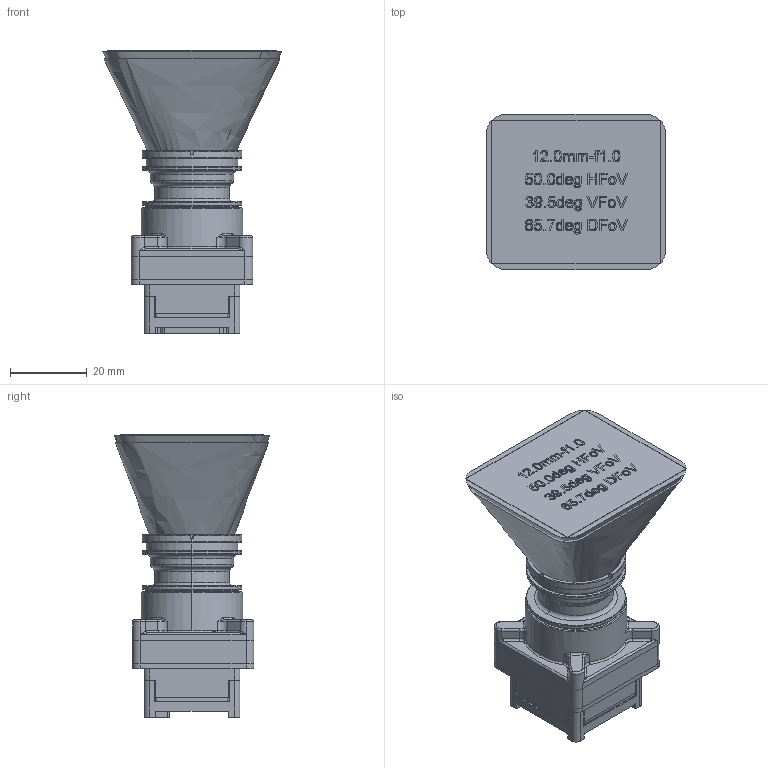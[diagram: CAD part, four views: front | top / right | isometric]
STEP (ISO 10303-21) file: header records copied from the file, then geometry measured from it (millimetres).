
FILE_DESCRIPTION (( 'STEP AP214' ), '1' );
FILE_NAME ('801280X0050-XXXXXX Boson SX8, 12mm-f1.0, 50deg HFoV Export.STEP', '2026-05-06T16:40:47', ( '' ), ( '' ), 'SwSTEP 2.0', 'SolidWorks 2025', '' );
FILE_SCHEMA (( 'AUTOMOTIVE_DESIGN' ));
Length unit declared in the file: millimetre
Products named in the file (4): 80-Boson SX8 Camera Core M24; Lens Assy, 12mm-f1.0, 50° HFoV; 801280X0050-XXXXXX Boson SX8, 12mm-f1.0, 50deg HFoV Export; Optical Cone, 12mm-f1.0, 50deg HFoV
Assembly tree (3 placements, depth 2):
  801280X0050-XXXXXX Boson SX8, 12mm-f1.0, 50deg HFoV Export
    80-Boson SX8 Camera Core M24
    Lens Assy, 12mm-f1.0, 50° HFoV
    Optical Cone, 12mm-f1.0, 50deg HFoV
Bounding box: 46.84 x 40.4 x 73.58 mm (x, y, z)
Volume: 68689.5 mm3; surface area: 34373.7 mm2
Topology: 29 solids, 32 shells, 7166 faces, 19183 edges, 12469 vertices
Faces by surface type: plane 4817, cylinder 1446, bspline 470, cone 222, torus 195, sphere 16
Entity records: 323793 total; most frequent: CARTESIAN_POINT 66474, ORIENTED_EDGE 38282, DIRECTION 34698, EDGE_CURVE 19141, VECTOR 14704, LINE 14704, VERTEX_POINT 12469, AXIS2_PLACEMENT_3D 9997
